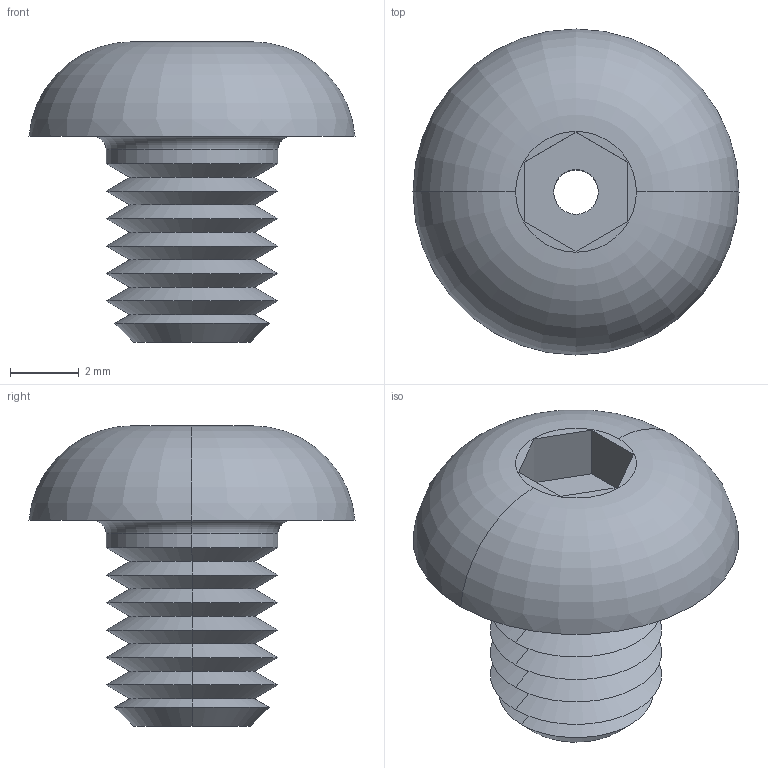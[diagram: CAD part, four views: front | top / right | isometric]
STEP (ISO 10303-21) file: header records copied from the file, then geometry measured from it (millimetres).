
FILE_DESCRIPTION (( 'STEP AP203' ), '1' );
FILE_NAME ('P0094.050-006-A2.step', '2019-07-12T16:53:07', ( '' ), ( '' ), 'SwSTEP 2.0', 'SolidWorks 2017', '' );
FILE_SCHEMA (( 'CONFIG_CONTROL_DESIGN' ));
Length unit declared in the file: millimetre
Products named in the file (1): P0094.050-006-A2
Bounding box: 9.5 x 9.5 x 8.75 mm (x, y, z)
Volume: 215.4 mm3; surface area: 359.2 mm2
Topology: 1 solids, 1 shells, 44 faces, 92 edges, 52 vertices
Faces by surface type: cone 26, plane 10, cylinder 4, torus 4
Entity records: 1237 total; most frequent: DIRECTION 226, CARTESIAN_POINT 189, ORIENTED_EDGE 184, EDGE_CURVE 92, AXIS2_PLACEMENT_3D 89, VERTEX_POINT 52, LINE 48, EDGE_LOOP 48
